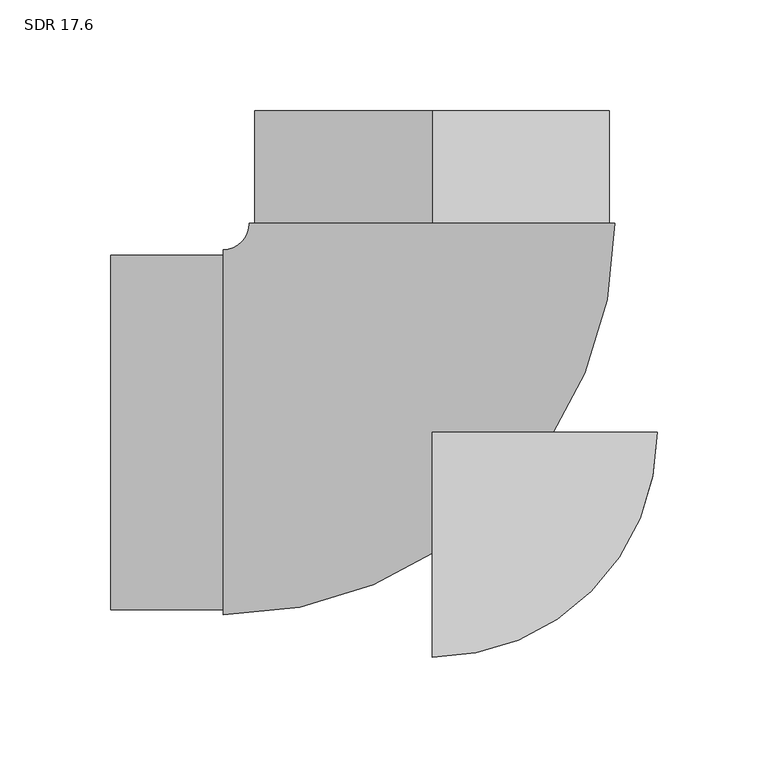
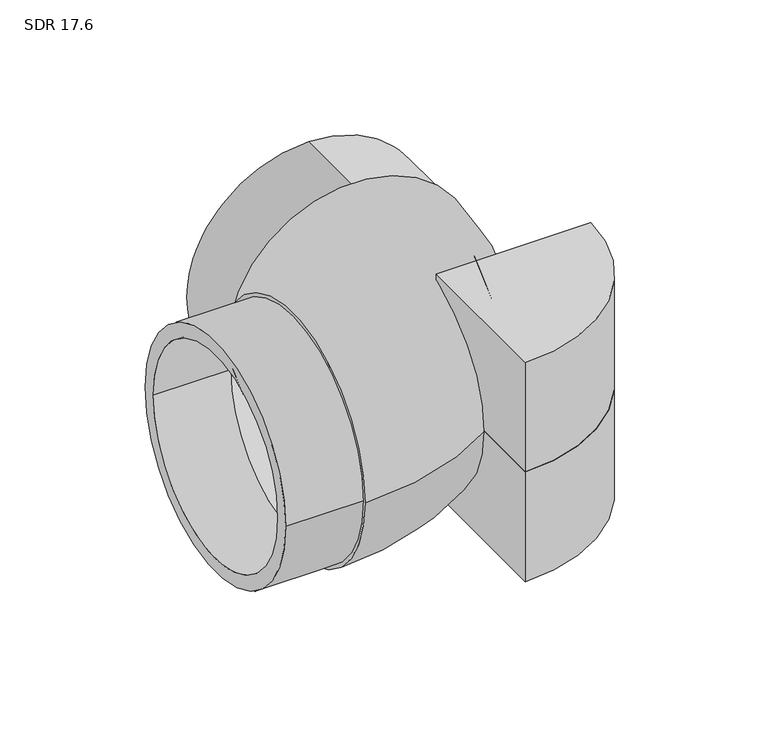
"""IFC4 building model written with IfcOpenShell, lengths in millimetres: pipe fitting geometry, Aquatherm - Elbow BW Molded : SDR 17.6."""

from ifc_helpers import new_model, si_unit, point, frame, frame_2d, origin, origin_with_axes, origin_2d, place, context, project, spatial, polyline, circle_curve, ellipse_curve, trimmed, segment, composite_curve, outline, extrude, source, transform, mapped, element, save
from ifc_brep_helpers import plane_surface, revolved_surface, advanced_brep


def sdr_17_6_4957d50b(model_context):
    return source(origin(), model_context, "Body", "SolidModel", [
        extrude(outline(composite_curve([segment(polyline([(0.0, -101.6), (0.0, 0.0), (101.5999995, 0.0098948)]), True, "CONTINUOUS"), segment(trimmed(circle_curve(origin_2d(), 101.6), [point((101.5999995, 0.0098948))], [point((0.0, -101.6))], False, "CARTESIAN"), True, "CONTINUOUS")], self_intersect=False)), frame((0.0, 0.0, -76.2), z_axis=(0.0, 0.0, 1.0), x_axis=(1.0, 0.0, 0.0)), (0.0, 0.0, 1.0), 76.2),
        extrude(outline(composite_curve([segment(trimmed(circle_curve(origin_2d(), 101.6), [point((101.5999995, 0.0098948))], [point((0.0, -101.6))], False, "CARTESIAN"), True, "CONTINUOUS"), segment(polyline([(0.0, -101.6), (0.0, 0.0), (101.5999995, 0.0098948)]), True, "CONTINUOUS")], self_intersect=False)), origin_with_axes(), (0.0, 0.0, 1.0), 76.2),
        extrude(outline(composite_curve([segment(trimmed(circle_curve(frame_2d((0.0, -80.01)), 80.01), [point((0.0, -160.02))], [point((0.0, 0.0))], False, "CARTESIAN"), True, "CONTINUOUS"), segment(trimmed(circle_curve(frame_2d((0.0, -80.01)), 80.01), [point((0.0, 0.0))], [point((0.0, -160.02))], False, "CARTESIAN"), True, "CONTINUOUS")], self_intersect=False), holes=[composite_curve([segment(trimmed(circle_curve(frame_2d((0.0, -80.01)), 70.5970588), [point((0.0, -150.6070588))], [point((0.0, -9.4129412))], True, "CARTESIAN"), True, "CONTINUOUS"), segment(trimmed(circle_curve(frame_2d((0.0, -80.01)), 70.5970588), [point((0.0, -9.4129412))], [point((0.0, -150.6070588))], True, "CARTESIAN"), True, "CONTINUOUS")], self_intersect=False)]), frame((-0.0091811, 94.2720996, 80.01), z_axis=(-9.738942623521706e-05, 0.9999999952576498, 0.0), x_axis=(-0.9999999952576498, -9.738942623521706e-05, 0.0)), (0.0, 0.0, 1.0), 50.7619),
        extrude(outline(composite_curve([segment(trimmed(circle_curve(frame_2d((-0.1496481, 0.0)), 80.01), [point((79.8603519, 0.0))], [point((-80.1596481, 0.0))], False, "CARTESIAN"), True, "CONTINUOUS"), segment(trimmed(circle_curve(frame_2d((-0.1496481, 0.0)), 80.01), [point((-80.1596481, 0.0))], [point((79.8603519, 0.0))], False, "CARTESIAN"), True, "CONTINUOUS")], self_intersect=False), holes=[composite_curve([segment(trimmed(circle_curve(origin_2d(), 70.5970588), [point((70.5970588, 0.0))], [point((-70.5970588, 0.0))], True, "CARTESIAN"), True, "CONTINUOUS"), segment(trimmed(circle_curve(origin_2d(), 70.5970588), [point((-70.5970588, 0.0))], [point((70.5970588, 0.0))], True, "CARTESIAN"), True, "CONTINUOUS")], self_intersect=False)]), frame((-145.034, 0.0, 0.0), z_axis=(1.0, 0.0, 0.0), x_axis=(0.0, 1.0, 0.0)), (0.0, 0.0, 1.0), 50.7619),
        advanced_brep(
        [(-94.2721, -82.4103, 0.0), (-94.2721, 82.4103, 0.0), (-94.2721, -70.5970588, 0.0), (-94.2721, 70.5970588, 0.0), (82.4011185, 94.2801254, 0.0), (-82.4194807, 94.2640737, 0.0), (70.5878774, 94.278975, 0.0), (-70.6062396, 94.2652241, 0.0)],
        [
            (0, 1, circle_curve(frame((-94.2721, 0.0, 0.0), z_axis=(-1.0, 0.0, 0.0), x_axis=(0.0, 1.0, 0.0)), 82.4103)),
            (1, 0, circle_curve(frame((-94.2721, 0.0, 0.0), z_axis=(-1.0, 0.0, 0.0), x_axis=(0.0, 1.0, 0.0)), 82.4103)),
            (2, 3, circle_curve(frame((-94.2721, 0.0, 0.0), z_axis=(1.0, 0.0, 0.0), x_axis=(0.0, 1.0, 0.0)), 70.5970588)),
            (3, 2, circle_curve(frame((-94.2721, 0.0, 0.0), z_axis=(1.0, 0.0, 0.0), x_axis=(0.0, 1.0, 0.0)), 70.5970588)),
            (4, 5, circle_curve(frame((-0.0091811, 94.2720996, 0.0), z_axis=(-9.738942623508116e-05, 0.9999999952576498, 0.0), x_axis=(-0.9999999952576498, -9.738942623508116e-05, 0.0)), 82.4103)),
            (5, 4, circle_curve(frame((-0.0091811, 94.2720996, 0.0), z_axis=(-9.738942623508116e-05, 0.9999999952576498, 0.0), x_axis=(-0.9999999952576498, -9.738942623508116e-05, 0.0)), 82.4103)),
            (6, 7, circle_curve(frame((-0.0091811, 94.2720996, 0.0), z_axis=(9.738942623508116e-05, -0.9999999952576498, 0.0), x_axis=(-0.9999999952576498, -9.738942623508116e-05, 0.0)), 70.5970588)),
            (7, 6, circle_curve(frame((-0.0091811, 94.2720996, 0.0), z_axis=(9.738942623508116e-05, -0.9999999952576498, 0.0), x_axis=(-0.9999999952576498, -9.738942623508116e-05, 0.0)), 70.5970588)),
            (5, 1, circle_curve(frame((-94.2721, 94.2629193, 0.0), z_axis=(0.0, 0.0, -1.0), x_axis=(0.0, -1.0, 0.0)), 11.8526193)),
            (0, 4, circle_curve(frame((-94.2721, 94.2629193, 0.0), z_axis=(0.0, 0.0, 1.0), x_axis=(0.0, -1.0, 0.0)), 176.6732193)),
            (7, 3, circle_curve(frame((-94.2721, 94.2629193, 0.0), z_axis=(0.0, 0.0, -1.0), x_axis=(0.0, -1.0, 0.0)), 23.6658605)),
            (2, 6, circle_curve(frame((-94.2721, 94.2629193, 0.0), z_axis=(0.0, 0.0, 1.0), x_axis=(0.0, -1.0, 0.0)), 164.8599782)),
        ],
        [
            plane_surface(frame((-94.2721, 0.0, 0.0), z_axis=(-1.0, 0.0, 0.0), x_axis=(0.0, 0.0, 1.0))),
            plane_surface(frame((-0.0091811, 94.2720996, 0.0), z_axis=(-9.738942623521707e-05, 0.9999999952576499, 0.0), x_axis=(0.0, 0.0, 1.0))),
            revolved_surface(trimmed(ellipse_curve(frame((-94.2721, 0.0, 0.0), z_axis=(-1.0, 0.0, 0.0), x_axis=(0.0, 1.0, 0.0)), 82.4103, 82.4103), [point((-94.2721, -82.4103, 0.0))], [point((-94.2721, 82.4103, 0.0))], True, "CARTESIAN"), (-94.2721, 94.2629193, 0.0), (0.0, 0.0, 1.0)),
            revolved_surface(trimmed(ellipse_curve(frame((-94.2721, 0.0, 0.0), z_axis=(-1.0, 0.0, 0.0), x_axis=(0.0, 1.0, 0.0)), 82.4103, 82.4103), [point((-94.2721, 82.4103, 0.0))], [point((-94.2721, -82.4103, 0.0))], True, "CARTESIAN"), (-94.2721, 94.2629193, 0.0), (0.0, 0.0, 1.0)),
            revolved_surface(trimmed(ellipse_curve(frame((-94.2721, 0.0, 0.0), z_axis=(1.0, 0.0, 0.0), x_axis=(0.0, 1.0, 0.0)), 70.5970588, 70.5970588), [point((-94.2721, -70.5970588, 0.0))], [point((-94.2721, 70.5970588, 0.0))], True, "CARTESIAN"), (-94.2721, 94.2629193, 0.0), (0.0, 0.0, 1.0)),
            revolved_surface(trimmed(ellipse_curve(frame((-94.2721, 0.0, 0.0), z_axis=(1.0, 0.0, 0.0), x_axis=(0.0, 1.0, 0.0)), 70.5970588, 70.5970588), [point((-94.2721, 70.5970588, 0.0))], [point((-94.2721, -70.5970588, 0.0))], True, "CARTESIAN"), (-94.2721, 94.2629193, 0.0), (0.0, 0.0, 1.0)),
        ],
        [
            (0, [[1, 2], [3, 4]]),
            (1, [[5, 6], [7, 8]]),
            (2, [[9, -1, 10, -6]]),
            (3, [[-10, -2, -9, -5]]),
            (4, [[11, -3, 12, -8]]),
            (5, [[-12, -4, -11, -7]]),
        ],
    ),
    ])


if __name__ == "__main__":
    model = new_model("IFC4")
    model_context = context("Model", 3, world=origin())
    ifc_project = project(units=[si_unit("LENGTHUNIT", "METRE", prefix="MILLI")], contexts=[model_context])
    site = spatial("IfcSite", under=ifc_project)
    building = spatial("IfcBuilding", under=site)
    placement = place(None, origin())
    sdr_17_6_shape = sdr_17_6_4957d50b(model_context)
    element("IfcPipeFitting", 1, ObjectType="Aquatherm - Elbow BW Molded : SDR 17.6", at=placement, inside=building, context=model_context, shape_type="MappedRepresentation", body=[
        mapped(sdr_17_6_shape, transform((0.0, 0.0, 0.0), x_axis=(1.0, 0.0, 0.0), y_axis=(0.0, 1.0, 0.0), z_axis=(0.0, 0.0, 1.0))),
    ])
    save(model, "model.ifc")
